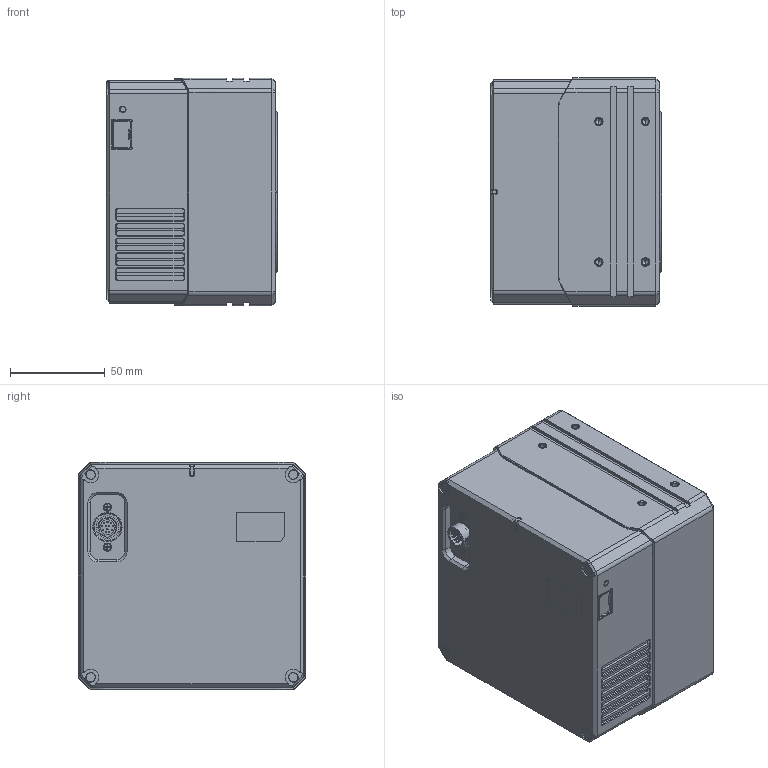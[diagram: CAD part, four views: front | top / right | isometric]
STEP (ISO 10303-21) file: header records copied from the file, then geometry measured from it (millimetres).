
FILE_DESCRIPTION((''),'2;1');
FILE_NAME('MV-CH1510-10FM_ASM_ASM','2021-05-25T11:51:56',('wangyijun6'),(''),'CREO PARAMETRIC BY PTC INC, 2017260','CREO PARAMETRIC BY PTC INC, 2017260','');
FILE_SCHEMA(('CONFIG_CONTROL_DESIGN'));
Products named in the file (1): MV-CH1510-10FM_ASM_ASM
Bounding box: 90.29 x 120 x 120 mm (x, y, z)
Volume: 1219855.5 mm3; surface area: 108312 mm2
Topology: 1 solids, 54 shells, 2149 faces, 6046 edges, 3971 vertices
Faces by surface type: plane 1339, cylinder 578, cone 190, torus 22, bspline 16, extrusion 4
Entity records: 70366 total; most frequent: CARTESIAN_POINT 13737, ORIENTED_EDGE 11872, DIRECTION 11717, EDGE_CURVE 6006, VECTOR 4155, LINE 4151, VERTEX_POINT 3971, AXIS2_PLACEMENT_3D 3781
